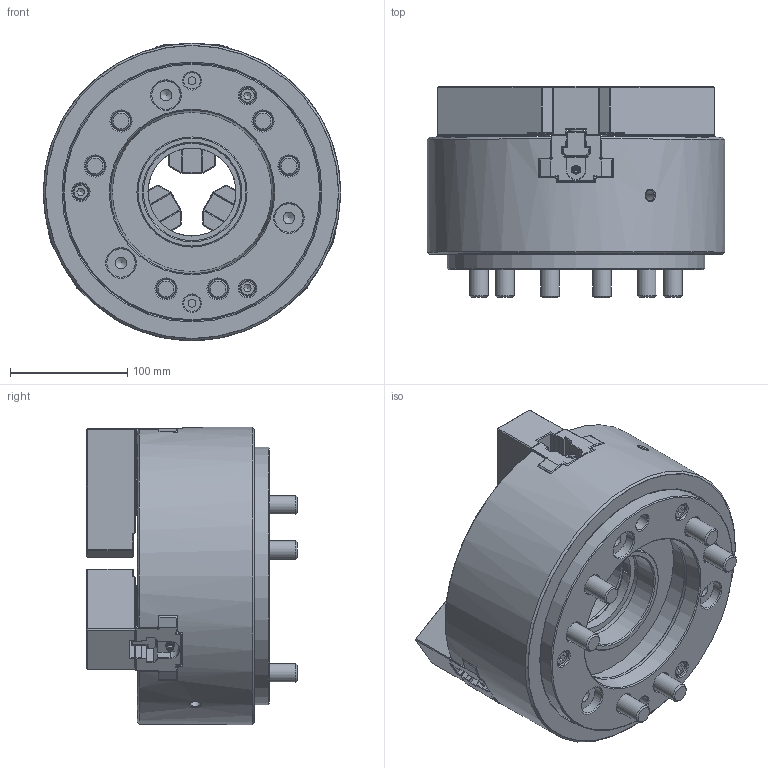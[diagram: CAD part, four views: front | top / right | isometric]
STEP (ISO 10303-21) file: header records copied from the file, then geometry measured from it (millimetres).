
FILE_DESCRIPTION(/* description */ (''),/* implementation_level */ '2;1');
FILE_NAME(/* name */ '\\Itserver\個人資料夾\柯玫如\8.網頁3D討論\1.中空油壓系列\1-1中空油壓夾頭\OP系列\OP-210\OP-210-A8.stp',/* time_stamp */ '2024-08-09T14:21:55+08:00',/* author */ ('034'),/* organization */ (''),/* preprocessor_version */ 'ST-DEVELOPER v16.13',/* originating_system */ 'Autodesk Inventor 2018',/* authorisation */ '');
FILE_SCHEMA (('AUTOMOTIVE_DESIGN { 1 0 10303 214 3 1 1 }'));
Products named in the file (1): OP-210-A8
Bounding box: 254 x 179.99 x 254 mm (x, y, z)
Volume: 5031345.1 mm3; surface area: 426596.1 mm2
Topology: 1 solids, 11 shells, 4967 faces, 16516 edges, 10496 vertices
Faces by surface type: plane 3223, cylinder 1473, cone 183, torus 52, bspline 21, sphere 15
Full cylindrical faces by diameter (mm): 3 x12, 3.9 x6, 5.2 x3, 6 x6, 6.5 x3, 6.8 x5, 8 x3, 8.6 x2, 9 x3, 10.3 x9, 10.5 x3, 11 x3, 12 x6, 13 x9, 14 x5, 16 x6, 17 x12, 18 x6, 19 x6, 24 x6, 24.2 x3, 25 x6, 75 x1, 75.2 x1, 78.5 x1, 79 x1, 83 x1, 86 x1, 94 x1, 136.1 x1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
Entity records: 179354 total; most frequent: CARTESIAN_POINT 33803, ORIENTED_EDGE 32096, DIRECTION 29598, EDGE_CURVE 16048, LINE 11818, VECTOR 11818, VERTEX_POINT 10353, AXIS2_PLACEMENT_3D 8890
